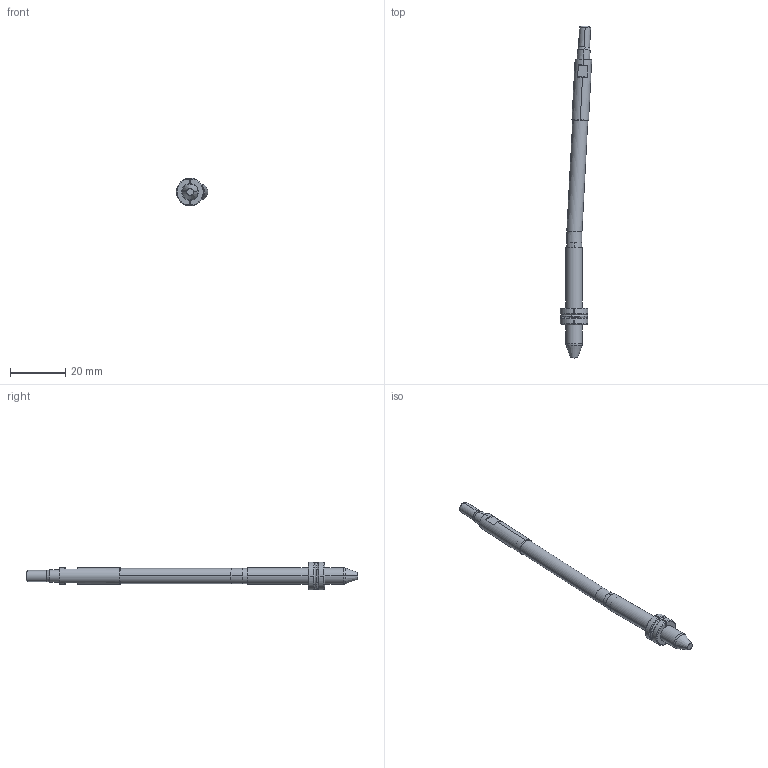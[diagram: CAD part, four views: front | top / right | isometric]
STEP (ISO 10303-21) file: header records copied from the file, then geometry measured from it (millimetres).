
FILE_DESCRIPTION (( 'STEP AP214' ), '1' );
FILE_NAME ('WP060030-EJE 3°.STEP', '2021-03-19T15:10:33', ( '' ), ( '' ), 'SwSTEP 2.0', 'SolidWorks 2019', '' );
FILE_SCHEMA (( 'AUTOMOTIVE_DESIGN' ));
Length unit declared in the file: millimetre
Products named in the file (6): WEB-002-9WP060030-2; WEB-006-9WP060030-6; WEB-008-JUNTA-JT7X1X9; WP060030-EJE 3°; WEB-001-9WP060030-1; WEB-007-9WP060030-F_WP060030-F-ON 3ø
Assembly tree (5 placements, depth 2):
  WP060030-EJE 3°
    WEB-001-9WP060030-1
    WEB-007-9WP060030-F_WP060030-F-ON 3ø
    WEB-002-9WP060030-2
    WEB-006-9WP060030-6
    WEB-008-JUNTA-JT7X1X9
Bounding box: 11.36 x 119.78 x 9.99 mm (x, y, z)
Volume: 3173.9 mm3; surface area: 2920.5 mm2
Topology: 6 solids, 6 shells, 112 faces, 262 edges, 164 vertices
Faces by surface type: cylinder 36, cone 28, plane 28, torus 20
Entity records: 3723 total; most frequent: CARTESIAN_POINT 714, DIRECTION 598, ORIENTED_EDGE 524, EDGE_CURVE 262, AXIS2_PLACEMENT_3D 256, VERTEX_POINT 164, CIRCLE 136, EDGE_LOOP 116
